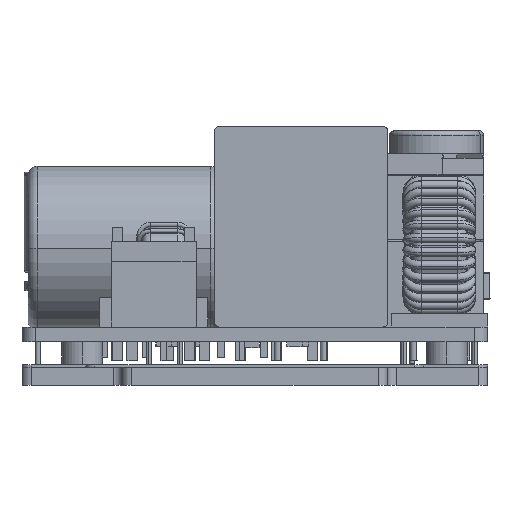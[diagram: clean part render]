
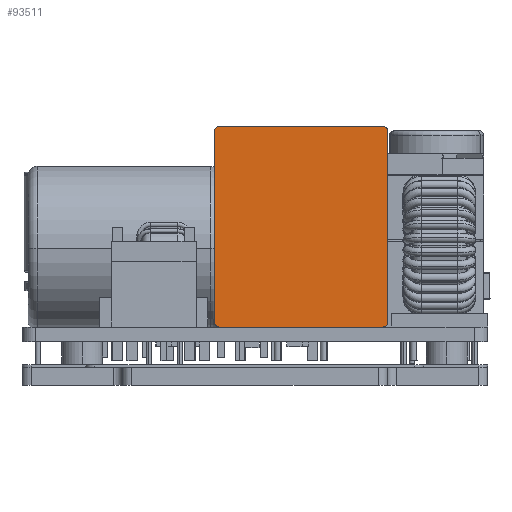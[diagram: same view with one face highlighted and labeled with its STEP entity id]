
A CAD part, left-side view. The second image highlights one B-rep face of the part: STEP entity #93511.
In plain terms, the highlighted planar face has unit normal (-1, 0, 0).
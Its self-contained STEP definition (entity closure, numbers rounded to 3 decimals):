
#93280=CARTESIAN_POINT('',(0.,10.5,9.));
#93281=DIRECTION('',(-1.,0.,0.));
#93282=DIRECTION('',(0.,0.,1.));
#93283=AXIS2_PLACEMENT_3D('',#93280,#93281,#93282);
#93288=DIRECTION('',(0.,-1.,0.));
#93289=VECTOR('',#93288,21.);
#93290=CARTESIAN_POINT('',(0.,10.5,9.5));
#93291=LINE('',#93290,#93289);
#93295=CARTESIAN_POINT('',(0.,-10.5,9.));
#93296=DIRECTION('',(-1.,0.,0.));
#93297=DIRECTION('',(0.,-1.,0.));
#93298=AXIS2_PLACEMENT_3D('',#93295,#93296,#93297);
#93303=DIRECTION('',(0.,0.,-1.));
#93304=VECTOR('',#93303,18.);
#93305=CARTESIAN_POINT('',(0.,-11.,9.));
#93306=LINE('',#93305,#93304);
#93310=CARTESIAN_POINT('',(0.,-10.5,-9.));
#93311=DIRECTION('',(-1.,0.,0.));
#93312=DIRECTION('',(0.,0.,-1.));
#93313=AXIS2_PLACEMENT_3D('',#93310,#93311,#93312);
#93318=DIRECTION('',(0.,1.,0.));
#93319=VECTOR('',#93318,21.);
#93320=CARTESIAN_POINT('',(0.,-10.5,-9.5));
#93321=LINE('',#93320,#93319);
#93325=CARTESIAN_POINT('',(0.,10.5,-9.));
#93326=DIRECTION('',(-1.,0.,0.));
#93327=DIRECTION('',(0.,1.,0.));
#93328=AXIS2_PLACEMENT_3D('',#93325,#93326,#93327);
#93333=DIRECTION('',(0.,0.,1.));
#93334=VECTOR('',#93333,18.);
#93335=CARTESIAN_POINT('',(0.,11.,-9.));
#93336=LINE('',#93335,#93334);
#93456=CARTESIAN_POINT('',(0.,10.5,9.5));
#93457=CARTESIAN_POINT('',(0.,11.,9.));
#93458=VERTEX_POINT('',#93456);
#93459=VERTEX_POINT('',#93457);
#93464=CARTESIAN_POINT('',(0.,11.,-9.));
#93465=CARTESIAN_POINT('',(0.,10.5,-9.5));
#93466=VERTEX_POINT('',#93464);
#93467=VERTEX_POINT('',#93465);
#93472=CARTESIAN_POINT('',(0.,-11.,9.));
#93473=CARTESIAN_POINT('',(0.,-10.5,9.5));
#93474=VERTEX_POINT('',#93472);
#93475=VERTEX_POINT('',#93473);
#93480=CARTESIAN_POINT('',(0.,-10.5,-9.5));
#93481=CARTESIAN_POINT('',(0.,-11.,-9.));
#93482=VERTEX_POINT('',#93480);
#93483=VERTEX_POINT('',#93481);
#93488=CARTESIAN_POINT('',(0.,0.,0.));
#93489=DIRECTION('',(1.,0.,0.));
#93490=DIRECTION('',(0.,0.,-1.));
#93491=AXIS2_PLACEMENT_3D('',#93488,#93489,#93490);
#93492=PLANE('',#93491);
#93494=ORIENTED_EDGE('',*,*,#93493,.F.);
#93496=ORIENTED_EDGE('',*,*,#93495,.T.);
#93498=ORIENTED_EDGE('',*,*,#93497,.F.);
#93500=ORIENTED_EDGE('',*,*,#93499,.T.);
#93502=ORIENTED_EDGE('',*,*,#93501,.F.);
#93504=ORIENTED_EDGE('',*,*,#93503,.T.);
#93506=ORIENTED_EDGE('',*,*,#93505,.F.);
#93508=ORIENTED_EDGE('',*,*,#93507,.T.);
#93509=EDGE_LOOP('',(#93494,#93496,#93498,#93500,#93502,#93504,#93506,#93508));
#93510=FACE_OUTER_BOUND('',#93509,.F.);
#93511=ADVANCED_FACE('',(#93510),#93492,.F.);
#93284=CIRCLE('',#93283,0.5);
#93299=CIRCLE('',#93298,0.5);
#93314=CIRCLE('',#93313,0.5);
#93329=CIRCLE('',#93328,0.5);
#93493=EDGE_CURVE('',#93458,#93459,#93284,.T.);
#93495=EDGE_CURVE('',#93458,#93475,#93291,.T.);
#93497=EDGE_CURVE('',#93474,#93475,#93299,.T.);
#93499=EDGE_CURVE('',#93474,#93483,#93306,.T.);
#93501=EDGE_CURVE('',#93482,#93483,#93314,.T.);
#93503=EDGE_CURVE('',#93482,#93467,#93321,.T.);
#93505=EDGE_CURVE('',#93466,#93467,#93329,.T.);
#93507=EDGE_CURVE('',#93466,#93459,#93336,.T.);
